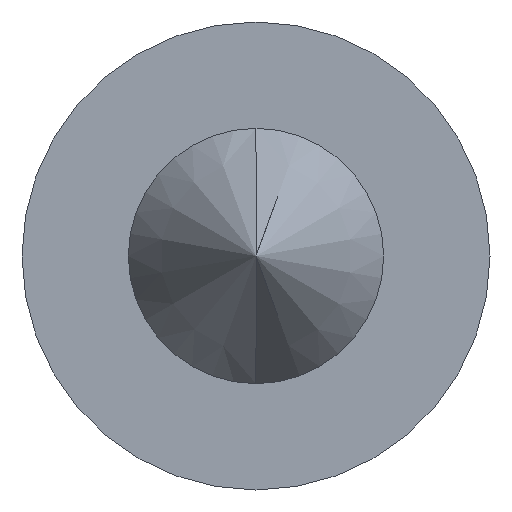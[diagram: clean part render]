
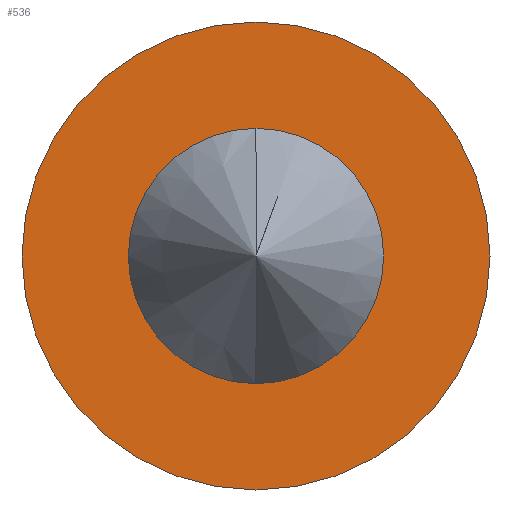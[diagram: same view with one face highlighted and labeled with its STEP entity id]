
A CAD part, left-side view. The second image highlights one B-rep face of the part: STEP entity #536.
In plain terms, the highlighted planar face has unit normal (-1, 0, 0).
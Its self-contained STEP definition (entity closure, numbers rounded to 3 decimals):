
#26 = ORIENTED_EDGE ( 'NONE', *, *, #2440, .F. ) ;
#55 = CARTESIAN_POINT ( 'NONE',  ( -2.645, 0., 0. ) ) ;
#69 = DIRECTION ( 'NONE',  ( -1., 0., 0. ) ) ;
#92 = VERTEX_POINT ( 'NONE', #1264 ) ;
#103 = FACE_BOUND ( 'NONE', #458, .T. ) ;
#145 = CIRCLE ( 'NONE', #1722, 2.75 ) ;
#154 = CIRCLE ( 'NONE', #1968, 1.2 ) ;
#269 = VERTEX_POINT ( 'NONE', #2849 ) ;
#458 = EDGE_LOOP ( 'NONE', ( #1500, #26 ) ) ;
#503 = VERTEX_POINT ( 'NONE', #2140 ) ;
#520 = EDGE_LOOP ( 'NONE', ( #1609, #1142 ) ) ;
#536 = ADVANCED_FACE ( 'NONE', ( #103, #1141 ), #2093, .F. ) ;
#692 = AXIS2_PLACEMENT_3D ( 'NONE', #2078, #2062, #2060 ) ;
#795 = CARTESIAN_POINT ( 'NONE',  ( -2.645, 0., -2.75 ) ) ;
#999 = VERTEX_POINT ( 'NONE', #795 ) ;
#1091 = DIRECTION ( 'NONE',  ( 0., 0., 1. ) ) ;
#1141 = FACE_OUTER_BOUND ( 'NONE', #520, .T. ) ;
#1142 = ORIENTED_EDGE ( 'NONE', *, *, #2393, .T. ) ;
#1195 = CIRCLE ( 'NONE', #1715, 1.2 ) ;
#1264 = CARTESIAN_POINT ( 'NONE',  ( -2.645, 0., -1.2 ) ) ;
#1500 = ORIENTED_EDGE ( 'NONE', *, *, #2024, .F. ) ;
#1609 = ORIENTED_EDGE ( 'NONE', *, *, #2074, .T. ) ;
#1715 = AXIS2_PLACEMENT_3D ( 'NONE', #2336, #2335, #2330 ) ;
#1722 = AXIS2_PLACEMENT_3D ( 'NONE', #2368, #2361, #2356 ) ;
#1920 = AXIS2_PLACEMENT_3D ( 'NONE', #2788, #2781, #2779 ) ;
#1968 = AXIS2_PLACEMENT_3D ( 'NONE', #55, #69, #1091 ) ;
#2024 = EDGE_CURVE ( 'NONE', #503, #92, #154, .T. ) ;
#2060 = DIRECTION ( 'NONE',  ( 0., 0., -1. ) ) ;
#2062 = DIRECTION ( 'NONE',  ( 1., 0., 0. ) ) ;
#2074 = EDGE_CURVE ( 'NONE', #269, #999, #2394, .T. ) ;
#2078 = CARTESIAN_POINT ( 'NONE',  ( -2.645, 2.75, 0. ) ) ;
#2093 = PLANE ( 'NONE',  #692 ) ;
#2140 = CARTESIAN_POINT ( 'NONE',  ( -2.645, 0., 1.2 ) ) ;
#2330 = DIRECTION ( 'NONE',  ( 0., 0., 1. ) ) ;
#2335 = DIRECTION ( 'NONE',  ( -1., 0., 0. ) ) ;
#2336 = CARTESIAN_POINT ( 'NONE',  ( -2.645, 0., 0. ) ) ;
#2356 = DIRECTION ( 'NONE',  ( 0., 0., 1. ) ) ;
#2361 = DIRECTION ( 'NONE',  ( -1., 0., 0. ) ) ;
#2368 = CARTESIAN_POINT ( 'NONE',  ( -2.645, 0., 0. ) ) ;
#2393 = EDGE_CURVE ( 'NONE', #999, #269, #145, .T. ) ;
#2394 = CIRCLE ( 'NONE', #1920, 2.75 ) ;
#2440 = EDGE_CURVE ( 'NONE', #92, #503, #1195, .T. ) ;
#2779 = DIRECTION ( 'NONE',  ( 0., 0., 1. ) ) ;
#2781 = DIRECTION ( 'NONE',  ( -1., 0., 0. ) ) ;
#2788 = CARTESIAN_POINT ( 'NONE',  ( -2.645, 0., 0. ) ) ;
#2849 = CARTESIAN_POINT ( 'NONE',  ( -2.645, 0., 2.75 ) ) ;
